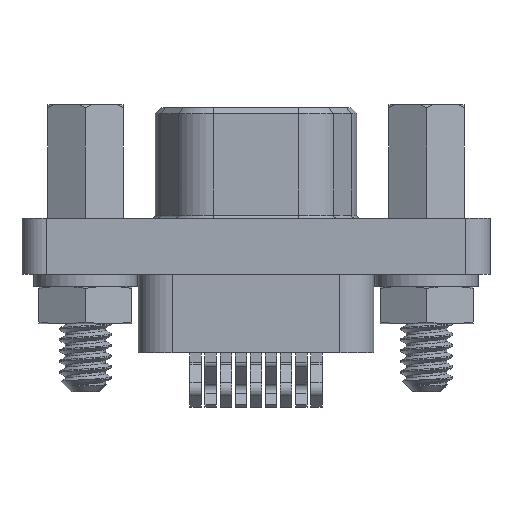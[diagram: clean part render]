
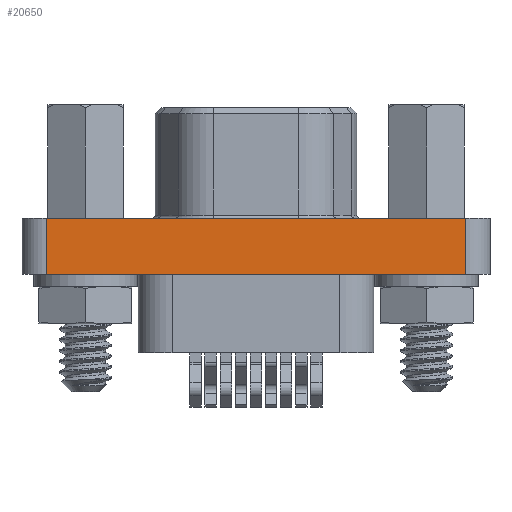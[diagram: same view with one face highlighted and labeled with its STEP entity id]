
A CAD part, front view. The second image highlights one B-rep face of the part: STEP entity #20650.
In plain terms, the highlighted planar face has unit normal (0, -1, 0).
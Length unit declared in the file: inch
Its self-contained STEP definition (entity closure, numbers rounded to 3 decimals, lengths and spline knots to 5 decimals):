
#510 = CARTESIAN_POINT ( 'NONE',  ( -0.3475, -0.15, 0.042 ) ) ;
#892 = CARTESIAN_POINT ( 'NONE',  ( 0.3475, -0.15, 0.042 ) ) ;
#975 = PLANE ( 'NONE',  #24949 ) ;
#2394 = ORIENTED_EDGE ( 'NONE', *, *, #5496, .F. ) ;
#2739 = VERTEX_POINT ( 'NONE', #6732 ) ;
#2914 = CARTESIAN_POINT ( 'NONE',  ( 0.3475, -0.15, 0.042 ) ) ;
#3064 = DIRECTION ( 'NONE',  ( 0., 0., 1. ) ) ;
#4002 = VECTOR ( 'NONE', #9428, 39.37008 ) ;
#4626 = EDGE_CURVE ( 'NONE', #9447, #12070, #18696, .T. ) ;
#5227 = VECTOR ( 'NONE', #18228, 39.37008 ) ;
#5388 = LINE ( 'NONE', #21261, #9302 ) ;
#5496 = EDGE_CURVE ( 'NONE', #20546, #12070, #5388, .T. ) ;
#6732 = CARTESIAN_POINT ( 'NONE',  ( 0.3475, -0.15, 0.042 ) ) ;
#7779 = EDGE_LOOP ( 'NONE', ( #2394, #18434, #25056, #14879 ) ) ;
#7831 = LINE ( 'NONE', #11466, #4002 ) ;
#8329 = FACE_OUTER_BOUND ( 'NONE', #7779, .T. ) ;
#9302 = VECTOR ( 'NONE', #24626, 39.37008 ) ;
#9428 = DIRECTION ( 'NONE',  ( -1., 0., 0. ) ) ;
#9447 = VERTEX_POINT ( 'NONE', #510 ) ;
#11466 = CARTESIAN_POINT ( 'NONE',  ( 0.3475, -0.15, 0.042 ) ) ;
#12070 = VERTEX_POINT ( 'NONE', #23903 ) ;
#12658 = LINE ( 'NONE', #2914, #12711 ) ;
#12711 = VECTOR ( 'NONE', #25429, 39.37008 ) ;
#14879 = ORIENTED_EDGE ( 'NONE', *, *, #4626, .T. ) ;
#15016 = CARTESIAN_POINT ( 'NONE',  ( 0.3475, -0.15, -0.051 ) ) ;
#15365 = DIRECTION ( 'NONE',  ( 0., -1., 0. ) ) ;
#16097 = EDGE_CURVE ( 'NONE', #2739, #20546, #12658, .T. ) ;
#18228 = DIRECTION ( 'NONE',  ( 0., 0., -1. ) ) ;
#18434 = ORIENTED_EDGE ( 'NONE', *, *, #16097, .F. ) ;
#18696 = LINE ( 'NONE', #21003, #5227 ) ;
#20546 = VERTEX_POINT ( 'NONE', #15016 ) ;
#20650 = ADVANCED_FACE ( 'NONE', ( #8329 ), #975, .T. ) ;
#21003 = CARTESIAN_POINT ( 'NONE',  ( -0.3475, -0.15, 0.042 ) ) ;
#21261 = CARTESIAN_POINT ( 'NONE',  ( 0.3475, -0.15, -0.051 ) ) ;
#21858 = EDGE_CURVE ( 'NONE', #2739, #9447, #7831, .T. ) ;
#23903 = CARTESIAN_POINT ( 'NONE',  ( -0.3475, -0.15, -0.051 ) ) ;
#24626 = DIRECTION ( 'NONE',  ( -1., 0., 0. ) ) ;
#24949 = AXIS2_PLACEMENT_3D ( 'NONE', #892, #15365, #3064 ) ;
#25056 = ORIENTED_EDGE ( 'NONE', *, *, #21858, .T. ) ;
#25429 = DIRECTION ( 'NONE',  ( 0., 0., -1. ) ) ;
